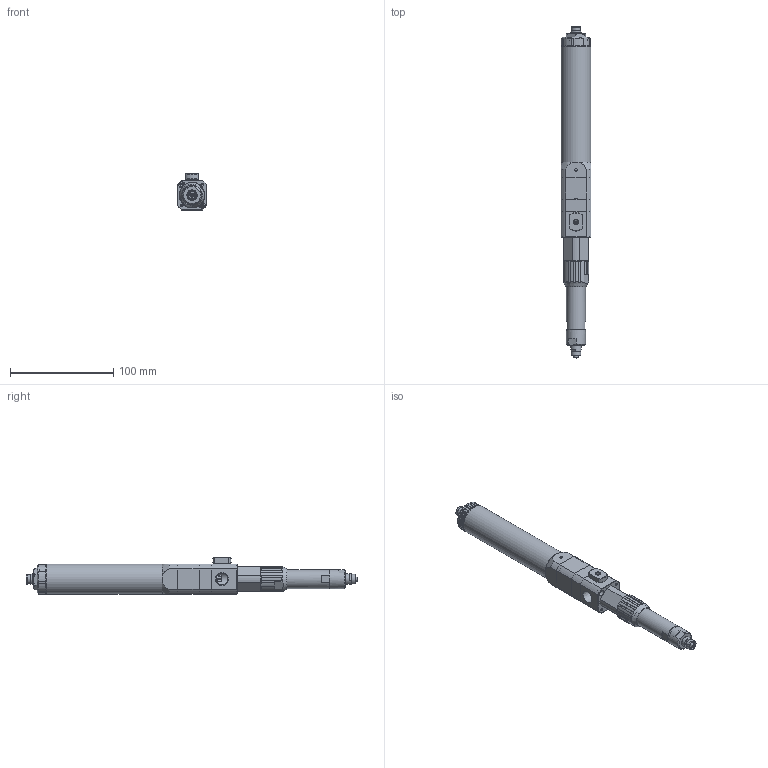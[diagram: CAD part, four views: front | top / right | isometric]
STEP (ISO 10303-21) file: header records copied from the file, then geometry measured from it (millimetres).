
FILE_DESCRIPTION (( 'STEP AP214' ), '1' );
FILE_NAME ('PCP-1500A-SY.STEP', '2024-10-11T11:38:14', ( '' ), ( '' ), 'SwSTEP 2.0', 'SolidWorks 2024', '' );
FILE_SCHEMA (( 'AUTOMOTIVE_DESIGN' ));
Length unit declared in the file: millimetre
Products named in the file (1): PCP-1500A-SY
Bounding box: 29 x 322 x 35 mm (x, y, z)
Volume: 85136.5 mm3; surface area: 82286.6 mm2
Topology: 29 solids, 29 shells, 1568 faces, 4064 edges, 2643 vertices
Faces by surface type: plane 929, cylinder 343, cone 188, bspline 63, sphere 32, torus 13
Full cylindrical faces by diameter (mm): 0.6 x1, 0.8 x4, 1 x5, 1.5 x3, 2 x1, 2.5 x12, 3 x2, 3.5 x15, 3.9 x1, 4 x1, 4.2 x1, 4.8 x1, 5 x1, 5.2 x1, 5.8 x7, 6 x9, 6.6 x3, 6.8 x1, 7 x1, 8 x4, 8.5 x1, 9 x4, 9.5 x1, 9.6 x2, 10 x4, 10.008 x2, 10.8 x2, 11 x1, 11.2 x1, 12 x1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
Entity records: 48880 total; most frequent: CARTESIAN_POINT 14906, ORIENTED_EDGE 6928, DIRECTION 6612, EDGE_CURVE 3464, AXIS2_PLACEMENT_3D 2642, VERTEX_POINT 2437, EDGE_LOOP 2149, FACE_OUTER_BOUND 1790
